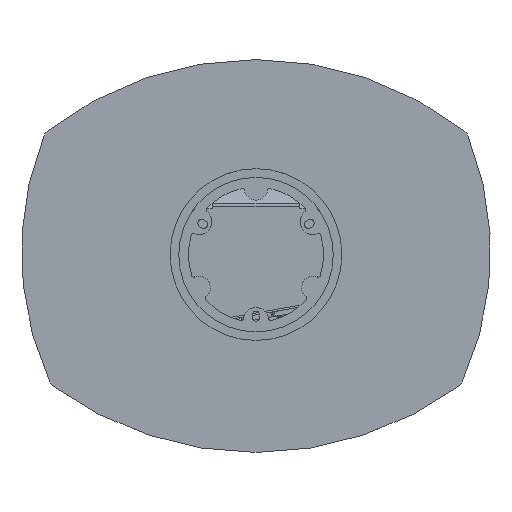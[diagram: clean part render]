
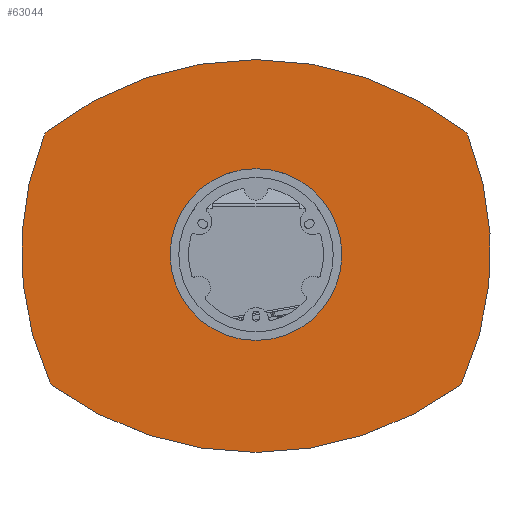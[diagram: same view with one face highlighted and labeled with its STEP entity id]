
A CAD part, top view. The second image highlights one B-rep face of the part: STEP entity #63044.
In plain terms, the highlighted planar face has unit normal (0, 0, 1).
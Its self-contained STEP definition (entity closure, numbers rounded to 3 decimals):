
#1907=FACE_BOUND('',#8305,.T.);
#4784=FACE_OUTER_BOUND('',#8304,.T.);
#8304=EDGE_LOOP('',(#53042,#53043,#53044,#53045,#53046,#53047,#53048,#53049));
#8305=EDGE_LOOP('',(#53050));
#22886=CIRCLE('',#68192,89.);
#22889=CIRCLE('',#68196,10.);
#22890=CIRCLE('',#68198,355.);
#22891=CIRCLE('',#68199,10.);
#22892=CIRCLE('',#68200,323.);
#22893=CIRCLE('',#68201,10.);
#22894=CIRCLE('',#68202,352.);
#22895=CIRCLE('',#68203,10.);
#22896=CIRCLE('',#68204,323.);
#28148=VERTEX_POINT('',#109305);
#28152=VERTEX_POINT('',#109314);
#28153=VERTEX_POINT('',#109316);
#28154=VERTEX_POINT('',#109320);
#28155=VERTEX_POINT('',#109322);
#28156=VERTEX_POINT('',#109324);
#28157=VERTEX_POINT('',#109326);
#28158=VERTEX_POINT('',#109328);
#28159=VERTEX_POINT('',#109330);
#36527=EDGE_CURVE('',#28148,#28148,#22886,.T.);
#36532=EDGE_CURVE('',#28152,#28153,#22889,.T.);
#36534=EDGE_CURVE('',#28154,#28152,#22890,.T.);
#36535=EDGE_CURVE('',#28155,#28154,#22891,.T.);
#36536=EDGE_CURVE('',#28156,#28155,#22892,.T.);
#36537=EDGE_CURVE('',#28157,#28156,#22893,.T.);
#36538=EDGE_CURVE('',#28158,#28157,#22894,.T.);
#36539=EDGE_CURVE('',#28159,#28158,#22895,.T.);
#36540=EDGE_CURVE('',#28153,#28159,#22896,.T.);
#53042=ORIENTED_EDGE('',*,*,#36532,.F.);
#53043=ORIENTED_EDGE('',*,*,#36534,.F.);
#53044=ORIENTED_EDGE('',*,*,#36535,.F.);
#53045=ORIENTED_EDGE('',*,*,#36536,.F.);
#53046=ORIENTED_EDGE('',*,*,#36537,.F.);
#53047=ORIENTED_EDGE('',*,*,#36538,.F.);
#53048=ORIENTED_EDGE('',*,*,#36539,.F.);
#53049=ORIENTED_EDGE('',*,*,#36540,.F.);
#53050=ORIENTED_EDGE('',*,*,#36527,.T.);
#56740=PLANE('',#68197);
#63044=ADVANCED_FACE('',(#4784,#1907),#56740,.F.);
#68192=AXIS2_PLACEMENT_3D('',#109306,#83802,#83803);
#68196=AXIS2_PLACEMENT_3D('',#109317,#83812,#83813);
#68197=AXIS2_PLACEMENT_3D('',#109319,#83815,#83816);
#68198=AXIS2_PLACEMENT_3D('',#109321,#83817,#83818);
#68199=AXIS2_PLACEMENT_3D('',#109323,#83819,#83820);
#68200=AXIS2_PLACEMENT_3D('',#109325,#83821,#83822);
#68201=AXIS2_PLACEMENT_3D('',#109327,#83823,#83824);
#68202=AXIS2_PLACEMENT_3D('',#109329,#83825,#83826);
#68203=AXIS2_PLACEMENT_3D('',#109331,#83827,#83828);
#68204=AXIS2_PLACEMENT_3D('',#109332,#83829,#83830);
#83802=DIRECTION('center_axis',(0.,0.,
-1.));
#83803=DIRECTION('ref_axis',(1.,0.,0.));
#83812=DIRECTION('center_axis',(0.,0.,
-1.));
#83813=DIRECTION('ref_axis',(-0.776,-0.631,0.));
#83815=DIRECTION('center_axis',(0.,0.,
-1.));
#83816=DIRECTION('ref_axis',(1.,0.,0.));
#83817=DIRECTION('center_axis',(0.,0.,
-1.));
#83818=DIRECTION('ref_axis',(0.599,-0.801,0.));
#83819=DIRECTION('center_axis',(0.,0.,
-1.));
#83820=DIRECTION('ref_axis',(0.776,-0.631,0.));
#83821=DIRECTION('center_axis',(0.,0.,
-1.));
#83822=DIRECTION('ref_axis',(0.924,0.382,0.));
#83823=DIRECTION('center_axis',(0.,0.,
-1.));
#83824=DIRECTION('ref_axis',(0.798,0.602,0.));
#83825=DIRECTION('center_axis',(0.,0.,
-1.));
#83826=DIRECTION('ref_axis',(-0.621,0.784,0.));
#83827=DIRECTION('center_axis',(0.,0.,
-1.));
#83828=DIRECTION('ref_axis',(-0.798,0.602,0.));
#83829=DIRECTION('center_axis',(0.,0.,
-1.));
#83830=DIRECTION('ref_axis',(-0.906,-0.424,0.));
#109305=CARTESIAN_POINT('',(-89.,-150.,354.));
#109306=CARTESIAN_POINT('Origin',(0.,-150.,354.));
#109314=CARTESIAN_POINT('',(-210.525,-285.84,354.));
#109316=CARTESIAN_POINT('',(-213.687,-281.95,354.));
#109317=CARTESIAN_POINT('Origin',(-204.595,-277.788,354.));
#109319=CARTESIAN_POINT('Origin',(0.,-151.453,
354.));
#109320=CARTESIAN_POINT('',(210.525,-285.84,354.));
#109321=CARTESIAN_POINT('Origin',(0.,0.,
354.));
#109322=CARTESIAN_POINT('',(213.687,-281.95,354.));
#109323=CARTESIAN_POINT('Origin',(204.595,-277.788,354.));
#109324=CARTESIAN_POINT('',(219.469,-26.473,354.));
#109325=CARTESIAN_POINT('Origin',(-80.,-147.5,354.));
#109326=CARTESIAN_POINT('',(216.343,-22.332,354.));
#109327=CARTESIAN_POINT('Origin',(210.197,-30.22,354.));
#109328=CARTESIAN_POINT('',(-216.343,-22.332,354.));
#109329=CARTESIAN_POINT('Origin',(0.,-300.,354.));
#109330=CARTESIAN_POINT('',(-219.469,-26.473,354.));
#109331=CARTESIAN_POINT('Origin',(-210.197,-30.22,354.));
#109332=CARTESIAN_POINT('Origin',(80.,-147.5,354.));
